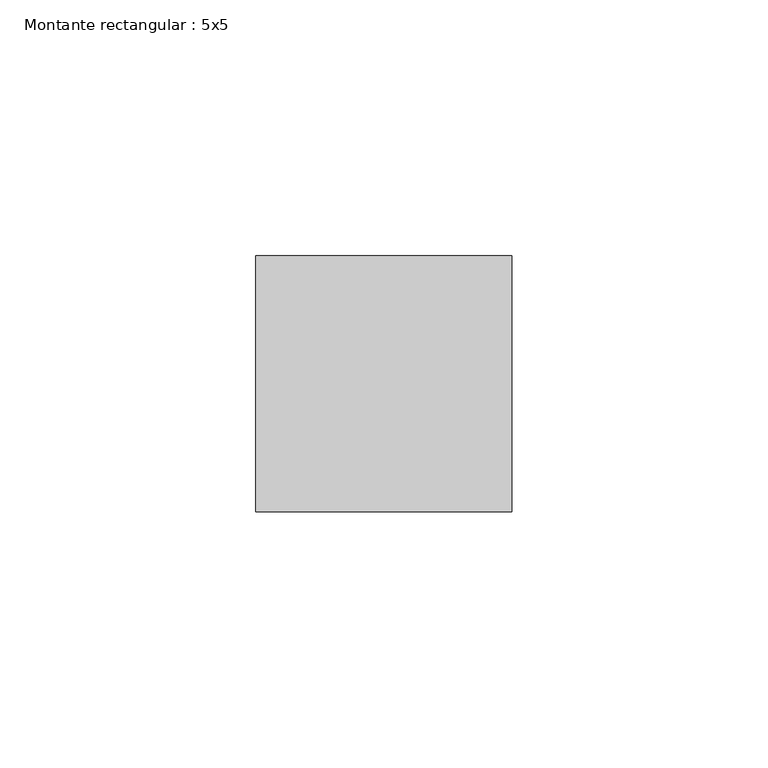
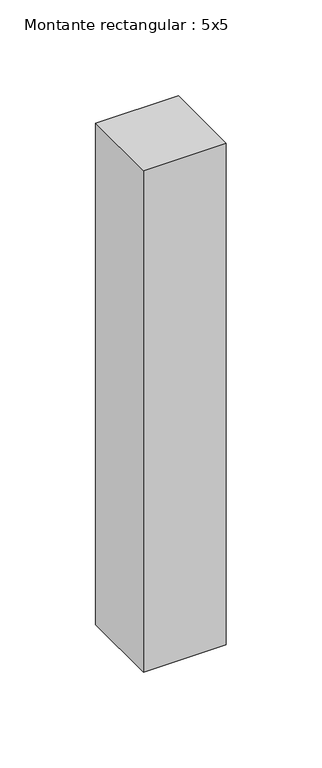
"""IFC4 building model written with IfcOpenShell, lengths in millimetres: member geometry, Montante rectangular : 5x5."""

from ifc_helpers import new_model, si_unit, frame, origin, place, context, project, spatial, polyline, outline, extrude, source, transform, mapped, element, save


def montante_rectangular_5x5_ec66791f(model_context):
    return source(origin(), model_context, "Body", "SweptSolid", [
        extrude(outline(polyline([(0.0, 25.0), (0.0, -25.0), (-50.0, -25.0), (-50.0, 25.0), (0.0, 25.0)])), frame((0.0, 0.0, -320.0), z_axis=(0.0, 0.0, 1.0), x_axis=(1.0, 0.0, 0.0)), (0.0, 0.0, 1.0), 320.0),
    ])


if __name__ == "__main__":
    model = new_model("IFC4")
    model_context = context("Model", 3, world=origin())
    ifc_project = project(units=[si_unit("LENGTHUNIT", "METRE", prefix="MILLI")], contexts=[model_context])
    site = spatial("IfcSite", under=ifc_project)
    building = spatial("IfcBuilding", under=site)
    placement = place(None, origin())
    montante_rectangular_5x5_shape = montante_rectangular_5x5_ec66791f(model_context)
    element("IfcMember", 1, ObjectType="Montante rectangular : 5x5", at=placement, inside=building, context=model_context, shape_type="MappedRepresentation", body=[
        mapped(montante_rectangular_5x5_shape, transform((0.0, 0.0, 0.0), x_axis=(1.0, 0.0, 0.0), y_axis=(0.0, 1.0, 0.0), z_axis=(0.0, 0.0, 1.0))),
    ])
    save(model, "model.ifc")
